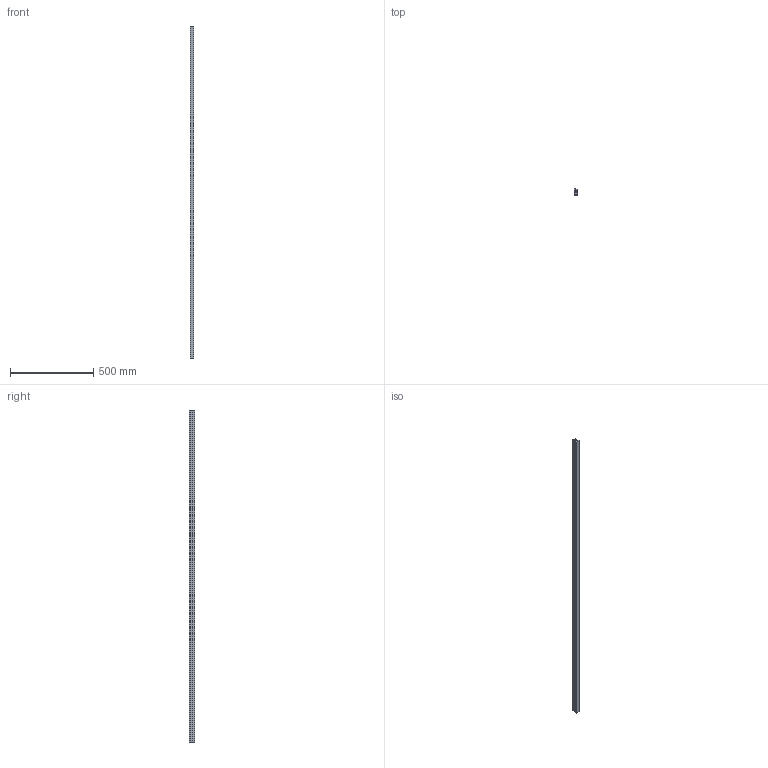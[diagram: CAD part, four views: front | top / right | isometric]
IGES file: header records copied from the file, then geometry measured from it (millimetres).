
Start section: SolidWorks IGES file using analytic representation for surfaces
Global section: file name: C:\Documents and Settings\URETIM3\Desktop\yeni katalog tolgay düzenli\E kataloðu\TT ZÝNCÝR KIZAKLARI\207 OTT 003.IGS; native system: SolidWorks 2006 by SolidWorks Corporation; preprocessor: SolidWorks 2006 by SolidWorks Corporation; author: URETIM3; date: 060912.155732; units: millimetre
Bounding box: 20 x 33.8 x 2000 mm (x, y, z)
Surface area: 295730.9 mm2 (no closed solid volume)
Topology: 0 solids, 0 shells, 16 faces, 84 edges, 84 vertices
Faces by surface type: bspline 16
